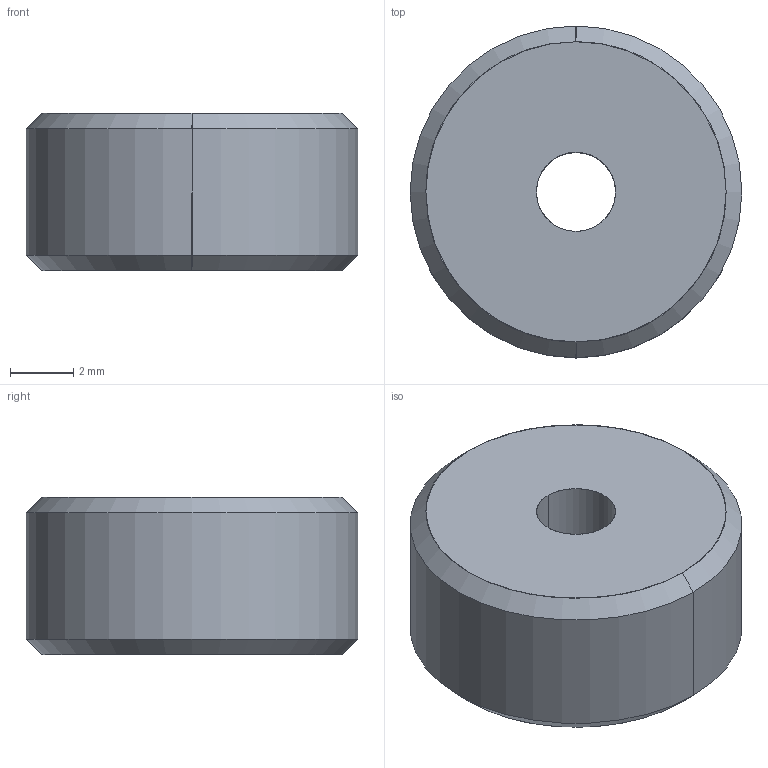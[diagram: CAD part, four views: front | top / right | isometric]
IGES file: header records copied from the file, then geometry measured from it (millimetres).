
Global section: file name: E:\UnigraphicsGraphicData\MISUMI_PRESS-PARTS\IGES\3d_fwss-d10.5-v2.5-t5.0_00536_r00.igs; native system: NX V5.0; preprocessor: UGS NX IGES V5.0; author: MISUMI; date: 20110105.160700; units: millimetre
Bounding box: 10.5 x 10.5 x 5 mm (x, y, z)
Surface area: 348 mm2 (no closed solid volume)
Topology: 0 solids, 0 shells, 10 faces, 64 edges, 64 vertices
Faces by surface type: bspline 10
